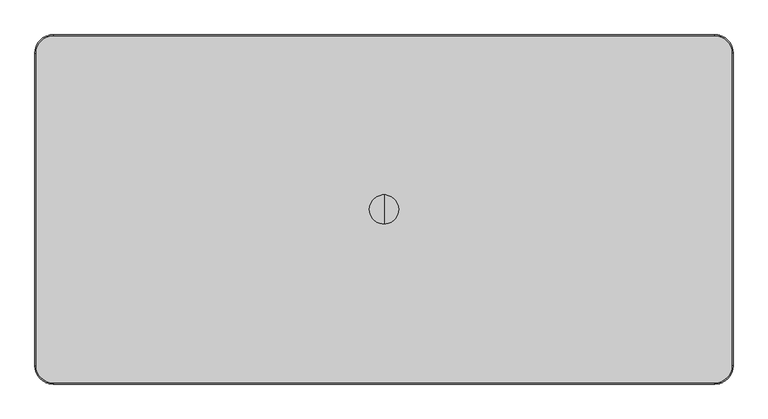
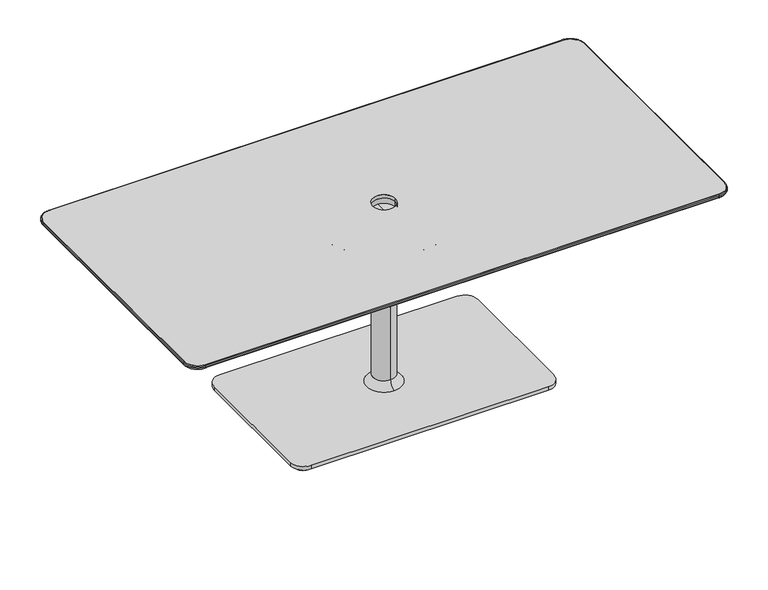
"""IFC4 building model written with IfcOpenShell, lengths in millimetres: furniture geometry, Steelcase Coalesse - Lagunitas - Table - Work (1) : 26H x 36D x 72W."""

from ifc_helpers import new_model, si_unit, point, frame, frame_2d, origin, origin_with_axes, place, context, project, spatial, polyline, circle_curve, ellipse_curve, trimmed, segment, composite_curve, outline, extrude, source, transform, mapped, element, save
from ifc_brep_helpers import plane_surface, cylinder_surface, revolved_surface, spline_surface, advanced_brep


def furniture_56d704a0(model_context):
    return source(origin(), model_context, "Body", "SolidModel", [
        advanced_brep(
        [(911.6570059, 409.7063839, 648.3724172), (867.2070059, 454.1563839, 648.3724172), (-866.5969941, 454.1563839, 648.3724172), (-911.0469941, 409.7063839, 648.3724172), (-911.0469941, -409.7063839, 648.3724172), (-866.5969941, -454.1563839, 648.3724172), (867.2070059, -454.1563839, 648.3724172), (911.6570059, -409.7063839, 648.3724172), (38.4050059, 0.0, 648.3724172), (-37.7949941, 0.0, 648.3724172), (843.8389826, 386.3390054, 630.3099277), (843.8389826, -386.3390054, 630.3099277), (-843.2289709, -386.3390054, 630.3099277), (-843.2289709, 386.3390054, 630.3099277), (-37.7949941, 0.0, 630.3099277), (38.4050059, 0.0, 630.3099277)],
        [
            (0, 1, circle_curve(frame((867.2070059, 409.7063839, 648.3724172), z_axis=(0.0, 0.0, 1.0), x_axis=(1.0, 0.0, 0.0)), 44.45)),
            (1, 2),
            (2, 3, circle_curve(frame((-866.5969941, 409.7063839, 648.3724172), z_axis=(0.0, 0.0, 1.0), x_axis=(1.0, 0.0, 0.0)), 44.45)),
            (3, 4),
            (4, 5, circle_curve(frame((-866.5969941, -409.7063839, 648.3724172), z_axis=(0.0, 0.0, 1.0), x_axis=(1.0, 0.0, 0.0)), 44.45)),
            (5, 6),
            (6, 7, circle_curve(frame((867.2070059, -409.7063839, 648.3724172), z_axis=(0.0, 0.0, 1.0), x_axis=(1.0, 0.0, 0.0)), 44.45)),
            (7, 0),
            (8, 9, circle_curve(frame((0.3050059, 0.0, 648.3724172), z_axis=(0.0, 0.0, -1.0), x_axis=(1.0, 0.0, 0.0)), 38.1)),
            (9, 8, circle_curve(frame((0.3050059, 0.0, 648.3724172), z_axis=(0.0, 0.0, -1.0), x_axis=(1.0, 0.0, 0.0)), 38.1)),
            (10, 11),
            (11, 12),
            (12, 13),
            (13, 10),
            (14, 15, circle_curve(frame((0.3050059, 0.0, 630.3099277), z_axis=(0.0, 0.0, 1.0), x_axis=(1.0, 0.0, 0.0)), 38.1)),
            (15, 14, circle_curve(frame((0.3050059, 0.0, 630.3099277), z_axis=(0.0, 0.0, 1.0), x_axis=(1.0, 0.0, 0.0)), 38.1)),
            (0, 10),
            (10, 1),
            (13, 2),
            (13, 3),
            (12, 4),
            (12, 5),
            (11, 6),
            (11, 7),
            (14, 9),
            (8, 15),
        ],
        [
            plane_surface(frame((0.3050059, 0.0, 648.3724172), z_axis=(0.0, 0.0, 1.0), x_axis=(-1.0, 0.0, 0.0))),
            plane_surface(frame((0.3050059, 0.0, 630.3099277), z_axis=(0.0, 0.0, -1.0), x_axis=(-1.0, 0.0, 0.0))),
            spline_surface(2, 1, [[(843.8389826, 386.3390054, 630.3099277), (911.6570059, 409.7063839, 648.3724172)], [(843.8389826, 386.3390054, 630.3099277), (911.6570058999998, 454.1563838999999, 648.3724172)], [(843.8389826, 386.3390054, 630.3099277), (867.2070059, 454.1563839, 648.3724172)]], [3, 3], [2, 2], [0.0, 1.0], [0.0, 1.0], weights=[[1.0, 1.0], [0.707106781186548, 0.707106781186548], [1.0, 1.0]]),
            plane_surface(frame((0.3050059, 386.3390054, 630.3099277), z_axis=(0.0, 0.25736805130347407, -0.9663134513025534), x_axis=(-1.0, 0.0, 0.0))),
            spline_surface(2, 1, [[(-843.2289709, 386.3390054, 630.3099277), (-866.5969941, 454.1563839, 648.3724172)], [(-843.2289709, 386.3390054, 630.3099277), (-911.0469940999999, 454.1563838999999, 648.3724172)], [(-843.2289709, 386.3390054, 630.3099277), (-911.0469941, 409.7063839, 648.3724172)]], [3, 3], [2, 2], [0.0, 1.0], [0.0, 1.0], weights=[[1.0, 1.0], [0.707106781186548, 0.707106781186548], [1.0, 1.0]]),
            plane_surface(frame((-843.2289709, 0.0, 630.3099277), z_axis=(-0.25736576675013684, 0.0, -0.9663140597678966), x_axis=(0.0, -1.0, 0.0))),
            spline_surface(2, 1, [[(-843.2289709, -386.3390054, 630.3099277), (-911.0469941, -409.7063839, 648.3724172)], [(-843.2289709, -386.3390054, 630.3099277), (-911.0469941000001, -454.15638390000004, 648.3724172)], [(-843.2289709, -386.3390054, 630.3099277), (-866.5969941, -454.1563839, 648.3724172)]], [3, 3], [2, 2], [0.0, 1.0], [0.0, 1.0], weights=[[1.0, 1.0], [0.7071067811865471, 0.7071067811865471], [1.0, 1.0]]),
            plane_surface(frame((0.3050059, -386.3390054, 630.3099277), z_axis=(0.0, -0.2573680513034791, -0.9663134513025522), x_axis=(1.0, 0.0, 0.0))),
            spline_surface(2, 1, [[(843.8389826, -386.3390054, 630.3099277), (867.2070059, -454.1563839, 648.3724172)], [(843.8389826, -386.3390054, 630.3099277), (911.6570059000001, -454.15638390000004, 648.3724172)], [(843.8389826, -386.3390054, 630.3099277), (911.6570059, -409.7063839, 648.3724172)]], [3, 3], [2, 2], [0.0, 1.0], [0.0, 1.0], weights=[[1.0, 1.0], [0.707106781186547, 0.707106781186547], [1.0, 1.0]]),
            plane_surface(frame((843.8389826, 0.0, 630.3099277), z_axis=(0.2573657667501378, 0.0, -0.9663140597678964), x_axis=(0.0, 1.0, 0.0))),
            revolved_surface(polyline([(38.4050059, 0.0, 648.3724172), (38.4050059, 0.0, 630.3099277)]), (0.3050059, 0.0, 622.3), (0.0, 0.0, 1.0)),
        ],
        [
            (0, [[1, 2, 3, 4, 5, 6, 7, 8], [9, 10]]),
            (1, [[11, 12, 13, 14], [15, 16]]),
            (2, [[-1, 17, 18]]),
            (3, [[-2, -18, -14, 19]]),
            (4, [[-3, -19, 20]]),
            (5, [[-4, -20, -13, 21]]),
            (6, [[-5, -21, 22]]),
            (7, [[-6, -22, -12, 23]]),
            (8, [[-7, -23, 24]]),
            (9, [[-8, -24, -11, -17]]),
            (10, [[25, -9, 26, -15]]),
            (10, [[-25, -16, -26, -10]]),
        ],
    ),
        extrude(outline(composite_curve([segment(trimmed(circle_curve(frame_2d((867.2070059, 409.7063839)), 44.45), [point((867.2070059, 454.1563839))], [point((911.6570059, 409.7063839))], False, "CARTESIAN"), True, "CONTINUOUS"), segment(polyline([(911.6570059, 409.7063839), (911.6570059, -409.7063839)]), True, "CONTINUOUS"), segment(trimmed(circle_curve(frame_2d((867.2070059, -409.7063839)), 44.45), [point((911.6570059, -409.7063839))], [point((867.2070059, -454.1563839))], False, "CARTESIAN"), True, "CONTINUOUS"), segment(polyline([(867.2070059, -454.1563839), (-866.5969941, -454.1563839)]), True, "CONTINUOUS"), segment(trimmed(circle_curve(frame_2d((-866.5969941, -409.7063839)), 44.45), [point((-866.5969941, -454.1563839))], [point((-911.0469941, -409.7063839))], False, "CARTESIAN"), True, "CONTINUOUS"), segment(polyline([(-911.0469941, -409.7063839), (-911.0469941, 409.7063839)]), True, "CONTINUOUS"), segment(trimmed(circle_curve(frame_2d((-866.5969941, 409.7063839)), 44.45), [point((-911.0469941, 409.7063839))], [point((-866.5969941, 454.1563839))], False, "CARTESIAN"), True, "CONTINUOUS"), segment(polyline([(-866.5969941, 454.1563839), (867.2070059, 454.1563839)]), True, "CONTINUOUS")], self_intersect=False), holes=[composite_curve([segment(trimmed(circle_curve(frame_2d((0.3050059, 0.0)), 38.1), [point((-37.7949941, 0.0))], [point((38.4050059, 0.0))], True, "CARTESIAN"), True, "CONTINUOUS"), segment(trimmed(circle_curve(frame_2d((0.3050059, 0.0)), 38.1), [point((38.4050059, 0.0))], [point((-37.7949941, 0.0))], True, "CARTESIAN"), True, "CONTINUOUS")], self_intersect=False)]), frame((0.0, 0.0, 648.3724172), z_axis=(0.0, 0.0, 1.0), x_axis=(1.0, 0.0, 0.0)), (0.0, 0.0, 1.0), 12.0275828),
        extrude(outline(composite_curve([segment(trimmed(circle_curve(frame_2d((-404.2943146, 226.8029495)), 25.4), [point((-429.6943146, 226.8029495))], [point((-378.8943146, 226.8029495))], False, "CARTESIAN"), True, "CONTINUOUS"), segment(trimmed(circle_curve(frame_2d((-404.2943146, 226.8029495)), 25.4), [point((-378.8943146, 226.8029495))], [point((-429.6943146, 226.8029495))], False, "CARTESIAN"), True, "CONTINUOUS")], self_intersect=False)), origin_with_axes(), (0.0, 0.0, 1.0), 10.6571495),
        extrude(outline(composite_curve([segment(trimmed(circle_curve(frame_2d((404.9043263, 226.8029495)), 25.4), [point((379.5043263, 226.8029495))], [point((430.3043263, 226.8029495))], False, "CARTESIAN"), True, "CONTINUOUS"), segment(trimmed(circle_curve(frame_2d((404.9043263, 226.8029495)), 25.4), [point((430.3043263, 226.8029495))], [point((379.5043263, 226.8029495))], False, "CARTESIAN"), True, "CONTINUOUS")], self_intersect=False)), origin_with_axes(), (0.0, 0.0, 1.0), 10.6571495),
        extrude(outline(composite_curve([segment(trimmed(circle_curve(frame_2d((404.9043263, -226.8029495)), 25.4), [point((379.5043263, -226.8029495))], [point((430.3043263, -226.8029495))], False, "CARTESIAN"), True, "CONTINUOUS"), segment(trimmed(circle_curve(frame_2d((404.9043263, -226.8029495)), 25.4), [point((430.3043263, -226.8029495))], [point((379.5043263, -226.8029495))], False, "CARTESIAN"), True, "CONTINUOUS")], self_intersect=False)), origin_with_axes(), (0.0, 0.0, 1.0), 10.6571495),
        extrude(outline(composite_curve([segment(trimmed(circle_curve(frame_2d((-404.2943146, -226.8029495)), 25.4), [point((-429.6943146, -226.8029495))], [point((-378.8943146, -226.8029495))], False, "CARTESIAN"), True, "CONTINUOUS"), segment(trimmed(circle_curve(frame_2d((-404.2943146, -226.8029495)), 25.4), [point((-378.8943146, -226.8029495))], [point((-429.6943146, -226.8029495))], False, "CARTESIAN"), True, "CONTINUOUS")], self_intersect=False)), origin_with_axes(), (0.0, 0.0, 1.0), 10.6571495),
        extrude(outline(composite_curve([segment(trimmed(circle_curve(frame_2d((400.3550059, 222.2481833)), 44.45), [point((400.3550059, 266.6981833))], [point((444.8050059, 222.2481833))], False, "CARTESIAN"), True, "CONTINUOUS"), segment(polyline([(444.8050059, 222.2481833), (444.8050059, -222.2481833)]), True, "CONTINUOUS"), segment(trimmed(circle_curve(frame_2d((400.3550059, -222.2481833)), 44.45), [point((444.8050059, -222.2481833))], [point((400.3550059, -266.6981833))], False, "CARTESIAN"), True, "CONTINUOUS"), segment(polyline([(400.3550059, -266.6981833), (-399.7449941, -266.6981833)]), True, "CONTINUOUS"), segment(trimmed(circle_curve(frame_2d((-399.7449941, -222.2481833)), 44.45), [point((-399.7449941, -266.6981833))], [point((-444.1949941, -222.2481833))], False, "CARTESIAN"), True, "CONTINUOUS"), segment(polyline([(-444.1949941, -222.2481833), (-444.1949941, 222.2481833)]), True, "CONTINUOUS"), segment(trimmed(circle_curve(frame_2d((-399.7449941, 222.2481833)), 44.45), [point((-444.1949941, 222.2481833))], [point((-399.7449941, 266.6981833))], False, "CARTESIAN"), True, "CONTINUOUS"), segment(polyline([(-399.7449941, 266.6981833), (400.3550059, 266.6981833)]), True, "CONTINUOUS")], self_intersect=False)), frame((0.0, 0.0, 10.6571495), z_axis=(0.0, 0.0, 1.0), x_axis=(1.0, 0.0, 0.0)), (0.0, 0.0, 1.0), 12.7000004),
        advanced_brep(
        [(-914.0930954, 409.7063839, 652.1656816), (-866.5969941, 457.2024852, 652.1656816), (-866.5969941, 454.1563839, 648.3724172), (-911.0469941, 409.7063839, 648.3724172), (-914.0930954, 409.7063839, 657.3538988), (-866.5969941, 457.2024852, 657.3538988), (-911.0469941, 409.7063839, 660.4), (-866.5969941, 454.1563839, 660.4), (-911.0469941, -409.7063839, 648.3724172), (-914.0930954, -409.7063839, 652.1656816), (-914.0930954, -409.7063839, 657.3538988), (-911.0469941, -409.7063839, 660.4), (-866.5969941, -457.2024852, 652.1656816), (-866.5969941, -454.1563839, 648.3724172), (-866.5969941, -457.2024852, 657.3538988), (-866.5969941, -454.1563839, 660.4), (867.2070059, -454.1563839, 648.3724172), (867.2070059, -457.2024852, 652.1656816), (867.2070059, -457.2024852, 657.3538988), (867.2070059, -454.1563839, 660.4), (914.7031071, -409.7063839, 652.1656816), (911.6570059, -409.7063839, 648.3724172), (914.7031071, -409.7063839, 657.3538988), (911.6570059, -409.7063839, 660.4), (911.6570059, 409.7063839, 648.3724172), (914.7031071, 409.7063839, 652.1656816), (914.7031071, 409.7063839, 657.3538988), (911.6570059, 409.7063839, 660.4), (867.2070059, 457.2024852, 652.1656816), (867.2070059, 454.1563839, 648.3724172), (867.2070059, 457.2024852, 657.3538988), (867.2070059, 454.1563839, 660.4)],
        [
            (0, 1, circle_curve(frame((-866.5969941, 409.7063839, 652.1656816), z_axis=(0.0, 0.0, -1.0), x_axis=(0.0, 1.0, 0.0)), 47.4961012)),
            (1, 2, circle_curve(frame((-866.5969941, 453.3175869, 652.1656816), z_axis=(-1.0, 0.0, 0.0), x_axis=(0.0, -1.0, 0.0)), 3.8848983)),
            (2, 3, circle_curve(frame((-866.5969941, 409.7063839, 648.3724172), z_axis=(0.0, 0.0, 1.0), x_axis=(0.0, 1.0, 0.0)), 44.45)),
            (3, 0, circle_curve(frame((-910.2081971, 409.7063839, 652.1656816), z_axis=(0.0, 1.0, 0.0), x_axis=(1.0, 0.0, 0.0)), 3.8848983)),
            (4, 5, circle_curve(frame((-866.5969941, 409.7063839, 657.3538988), z_axis=(0.0, 0.0, -1.0), x_axis=(0.0, 1.0, 0.0)), 47.4961012)),
            (5, 1),
            (0, 4),
            (6, 7, circle_curve(frame((-866.5969941, 409.7063839, 660.4), z_axis=(0.0, 0.0, -1.0), x_axis=(0.0, 1.0, 0.0)), 44.45)),
            (7, 5, circle_curve(frame((-866.5969941, 454.1563839, 657.3538988), z_axis=(-1.0, 0.0, 0.0), x_axis=(0.0, -1.0, 0.0)), 3.0461012)),
            (4, 6, circle_curve(frame((-911.0469941, 409.7063839, 657.3538988), z_axis=(0.0, 1.0, 0.0), x_axis=(1.0, 0.0, 0.0)), 3.0461012)),
            (2, 7),
            (6, 3),
            (3, 8),
            (8, 9, circle_curve(frame((-910.2081971, -409.7063839, 652.1656816), z_axis=(0.0, 1.0, 0.0), x_axis=(1.0, 0.0, 0.0)), 3.8848983)),
            (9, 0),
            (9, 10),
            (10, 4),
            (10, 11, circle_curve(frame((-911.0469941, -409.7063839, 657.3538988), z_axis=(0.0, 1.0, 0.0), x_axis=(1.0, 0.0, 0.0)), 3.0461012)),
            (11, 6),
            (11, 8),
            (12, 9, circle_curve(frame((-866.5969941, -409.7063839, 652.1656816), z_axis=(0.0, 0.0, -1.0), x_axis=(-1.0, 0.0, 0.0)), 47.4961012)),
            (8, 13, circle_curve(frame((-866.5969941, -409.7063839, 648.3724172), z_axis=(0.0, 0.0, 1.0), x_axis=(-1.0, 0.0, 0.0)), 44.45)),
            (13, 12, circle_curve(frame((-866.5969941, -453.3175869, 652.1656816), z_axis=(-1.0, 0.0, 0.0), x_axis=(0.0, 1.0, 0.0)), 3.8848983)),
            (14, 10, circle_curve(frame((-866.5969941, -409.7063839, 657.3538988), z_axis=(0.0, 0.0, -1.0), x_axis=(-1.0, 0.0, 0.0)), 47.4961012)),
            (12, 14),
            (15, 11, circle_curve(frame((-866.5969941, -409.7063839, 660.4), z_axis=(0.0, 0.0, -1.0), x_axis=(-1.0, 0.0, 0.0)), 44.45)),
            (14, 15, circle_curve(frame((-866.5969941, -454.1563839, 657.3538988), z_axis=(-1.0, 0.0, 0.0), x_axis=(0.0, 1.0, 0.0)), 3.0461012)),
            (15, 13),
            (13, 16),
            (16, 17, circle_curve(frame((867.2070059, -453.3175869, 652.1656816), z_axis=(-1.0, 0.0, 0.0), x_axis=(0.0, 1.0, 0.0)), 3.8848983)),
            (17, 12),
            (17, 18),
            (18, 14),
            (18, 19, circle_curve(frame((867.2070059, -454.1563839, 657.3538988), z_axis=(-1.0, 0.0, 0.0), x_axis=(0.0, 1.0, 0.0)), 3.0461012)),
            (19, 15),
            (19, 16),
            (20, 17, circle_curve(frame((867.2070059, -409.7063839, 652.1656816), z_axis=(0.0, 0.0, -1.0), x_axis=(0.0, -1.0, 0.0)), 47.4961012)),
            (16, 21, circle_curve(frame((867.2070059, -409.7063839, 648.3724172), z_axis=(0.0, 0.0, 1.0), x_axis=(0.0, -1.0, 0.0)), 44.45)),
            (21, 20, circle_curve(frame((910.8182088, -409.7063839, 652.1656816), z_axis=(0.0, -1.0, 0.0), x_axis=(-1.0, 0.0, 0.0)), 3.8848983)),
            (22, 18, circle_curve(frame((867.2070059, -409.7063839, 657.3538988), z_axis=(0.0, 0.0, -1.0), x_axis=(0.0, -1.0, 0.0)), 47.4961012)),
            (20, 22),
            (23, 19, circle_curve(frame((867.2070059, -409.7063839, 660.4), z_axis=(0.0, 0.0, -1.0), x_axis=(0.0, -1.0, 0.0)), 44.45)),
            (22, 23, circle_curve(frame((911.6570059, -409.7063839, 657.3538988), z_axis=(0.0, -1.0, 0.0), x_axis=(-1.0, 0.0, 0.0)), 3.0461012)),
            (23, 21),
            (21, 24),
            (24, 25, circle_curve(frame((910.8182088, 409.7063839, 652.1656816), z_axis=(0.0, -1.0, 0.0), x_axis=(-1.0, 0.0, 0.0)), 3.8848983)),
            (25, 20),
            (25, 26),
            (26, 22),
            (26, 27, circle_curve(frame((911.6570059, 409.7063839, 657.3538988), z_axis=(0.0, -1.0, 0.0), x_axis=(-1.0, 0.0, 0.0)), 3.0461012)),
            (27, 23),
            (27, 24),
            (28, 25, circle_curve(frame((867.2070059, 409.7063839, 652.1656816), z_axis=(0.0, 0.0, -1.0), x_axis=(1.0, 0.0, 0.0)), 47.4961012)),
            (24, 29, circle_curve(frame((867.2070059, 409.7063839, 648.3724172), z_axis=(0.0, 0.0, 1.0), x_axis=(1.0, 0.0, 0.0)), 44.45)),
            (29, 28, circle_curve(frame((867.2070059, 453.3175869, 652.1656816), z_axis=(1.0, 0.0, 0.0), x_axis=(0.0, -1.0, 0.0)), 3.8848983)),
            (30, 26, circle_curve(frame((867.2070059, 409.7063839, 657.3538988), z_axis=(0.0, 0.0, -1.0), x_axis=(1.0, 0.0, 0.0)), 47.4961012)),
            (28, 30),
            (31, 27, circle_curve(frame((867.2070059, 409.7063839, 660.4), z_axis=(0.0, 0.0, -1.0), x_axis=(1.0, 0.0, 0.0)), 44.45)),
            (30, 31, circle_curve(frame((867.2070059, 454.1563839, 657.3538988), z_axis=(1.0, 0.0, 0.0), x_axis=(0.0, -1.0, 0.0)), 3.0461012)),
            (31, 29),
            (29, 2),
            (1, 28),
            (5, 30),
            (7, 31),
        ],
        [
            revolved_surface(trimmed(ellipse_curve(frame((-866.5969941, 453.3175869, 652.1656816), z_axis=(1.0, 0.0, 0.0), x_axis=(0.0, -1.0, 0.0)), 3.8848983, 3.8848983), [point((-866.5969941, 454.1563839, 648.3724172))], [point((-866.5969941, 457.2024852, 652.1656816))], True, "CARTESIAN"), (-866.5969941, 409.7063839, 0.0), (0.0, 0.0, 1.0)),
            cylinder_surface(frame((-866.5969941, 409.7063839, 0.0), z_axis=(0.0, 0.0, 1.0), x_axis=(0.0, 1.0, 0.0)), 47.4961012),
            revolved_surface(trimmed(ellipse_curve(frame((-866.5969941, 454.1563839, 657.3538988), z_axis=(1.0, 0.0, 0.0), x_axis=(0.0, -1.0, 0.0)), 3.0461012, 3.0461012), [point((-866.5969941, 457.2024852, 657.3538988))], [point((-866.5969941, 454.1563839, 660.4))], True, "CARTESIAN"), (-866.5969941, 409.7063839, 0.0), (0.0, 0.0, 1.0)),
            revolved_surface(polyline([(-866.5969941, 454.1563839, 660.4), (-866.5969941, 454.1563839, 648.3724172)]), (-866.5969941, 409.7063839, 0.0), (0.0, 0.0, 1.0)),
            cylinder_surface(frame((-910.2081971, 409.7063839, 652.1656816), z_axis=(0.0, 1.0, 0.0), x_axis=(1.0, 0.0, 0.0)), 3.8848983),
            plane_surface(frame((-914.0930954, 409.7063839, 652.1656816), z_axis=(-1.0, 0.0, 0.0), x_axis=(0.0, -1.0, 0.0))),
            cylinder_surface(frame((-911.0469941, 409.7063839, 657.3538988), z_axis=(0.0, 1.0, 0.0), x_axis=(1.0, 0.0, 0.0)), 3.0461012),
            plane_surface(frame((-911.0469941, 409.7063839, 660.4), z_axis=(1.0, 0.0, 0.0), x_axis=(0.0, -1.0, 0.0))),
            revolved_surface(trimmed(ellipse_curve(frame((-910.2081971, -409.7063839, 652.1656816), z_axis=(0.0, 1.0, 0.0), x_axis=(1.0, 0.0, 0.0)), 3.8848983, 3.8848983), [point((-911.0469941, -409.7063839, 648.3724172))], [point((-914.0930954, -409.7063839, 652.1656816))], True, "CARTESIAN"), (-866.5969941, -409.7063839, 0.0), (0.0, 0.0, 1.0)),
            cylinder_surface(frame((-866.5969941, -409.7063839, 0.0), z_axis=(0.0, 0.0, 1.0), x_axis=(-1.0, 0.0, 0.0)), 47.4961012),
            revolved_surface(trimmed(ellipse_curve(frame((-911.0469941, -409.7063839, 657.3538988), z_axis=(0.0, 1.0, 0.0), x_axis=(1.0, 0.0, 0.0)), 3.0461012, 3.0461012), [point((-914.0930954, -409.7063839, 657.3538988))], [point((-911.0469941, -409.7063839, 660.4))], True, "CARTESIAN"), (-866.5969941, -409.7063839, 0.0), (0.0, 0.0, 1.0)),
            revolved_surface(polyline([(-911.0469941, -409.7063839, 660.4), (-911.0469941, -409.7063839, 648.3724172)]), (-866.5969941, -409.7063839, 0.0), (0.0, 0.0, 1.0)),
            cylinder_surface(frame((-866.5969941, -453.3175869, 652.1656816), z_axis=(-1.0, 0.0, 0.0), x_axis=(0.0, 1.0, 0.0)), 3.8848983),
            plane_surface(frame((-866.5969941, -457.2024852, 652.1656816), z_axis=(0.0, -1.0, 0.0), x_axis=(1.0, 0.0, 0.0))),
            cylinder_surface(frame((-866.5969941, -454.1563839, 657.3538988), z_axis=(-1.0, 0.0, 0.0), x_axis=(0.0, 1.0, 0.0)), 3.0461012),
            plane_surface(frame((-866.5969941, -454.1563839, 660.4), z_axis=(0.0, 1.0, 0.0), x_axis=(1.0, 0.0, 0.0))),
            revolved_surface(trimmed(ellipse_curve(frame((867.2070059, -453.3175869, 652.1656816), z_axis=(-1.0, 0.0, 0.0), x_axis=(0.0, 1.0, 0.0)), 3.8848983, 3.8848983), [point((867.2070059, -454.1563839, 648.3724172))], [point((867.2070059, -457.2024852, 652.1656816))], True, "CARTESIAN"), (867.2070059, -409.7063839, 0.0), (0.0, 0.0, 1.0)),
            cylinder_surface(frame((867.2070059, -409.7063839, 0.0), z_axis=(0.0, 0.0, 1.0), x_axis=(0.0, -1.0, 0.0)), 47.4961012),
            revolved_surface(trimmed(ellipse_curve(frame((867.2070059, -454.1563839, 657.3538988), z_axis=(-1.0, 0.0, 0.0), x_axis=(0.0, 1.0, 0.0)), 3.0461012, 3.0461012), [point((867.2070059, -457.2024852, 657.3538988))], [point((867.2070059, -454.1563839, 660.4))], True, "CARTESIAN"), (867.2070059, -409.7063839, 0.0), (0.0, 0.0, 1.0)),
            revolved_surface(polyline([(867.2070059, -454.1563839, 660.4), (867.2070059, -454.1563839, 648.3724172)]), (867.2070059, -409.7063839, 0.0), (0.0, 0.0, 1.0)),
            cylinder_surface(frame((910.8182088, -409.7063839, 652.1656816), z_axis=(0.0, -1.0, 0.0), x_axis=(-1.0, 0.0, 0.0)), 3.8848983),
            plane_surface(frame((914.7031071, -409.7063839, 652.1656816), z_axis=(1.0, 0.0, 0.0), x_axis=(0.0, 1.0, 0.0))),
            cylinder_surface(frame((911.6570059, -409.7063839, 657.3538988), z_axis=(0.0, -1.0, 0.0), x_axis=(-1.0, 0.0, 0.0)), 3.0461012),
            plane_surface(frame((911.6570059, -409.7063839, 660.4), z_axis=(-1.0, 0.0, 0.0), x_axis=(0.0, 1.0, 0.0))),
            revolved_surface(trimmed(ellipse_curve(frame((910.8182088, 409.7063839, 652.1656816), z_axis=(0.0, -1.0, 0.0), x_axis=(-1.0, 0.0, 0.0)), 3.8848983, 3.8848983), [point((911.6570059, 409.7063839, 648.3724172))], [point((914.7031071, 409.7063839, 652.1656816))], True, "CARTESIAN"), (867.2070059, 409.7063839, 0.0), (0.0, 0.0, 1.0)),
            cylinder_surface(frame((867.2070059, 409.7063839, 0.0), z_axis=(0.0, 0.0, 1.0), x_axis=(1.0, 0.0, 0.0)), 47.4961012),
            revolved_surface(trimmed(ellipse_curve(frame((911.6570059, 409.7063839, 657.3538988), z_axis=(0.0, -1.0, 0.0), x_axis=(-1.0, 0.0, 0.0)), 3.0461012, 3.0461012), [point((914.7031071, 409.7063839, 657.3538988))], [point((911.6570059, 409.7063839, 660.4))], True, "CARTESIAN"), (867.2070059, 409.7063839, 0.0), (0.0, 0.0, 1.0)),
            revolved_surface(polyline([(911.6570059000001, 409.7063839, 660.4), (911.6570059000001, 409.7063839, 648.3724172)]), (867.2070059, 409.7063839, 0.0), (0.0, 0.0, 1.0)),
            cylinder_surface(frame((867.2070059, 453.3175869, 652.1656816), z_axis=(1.0, 0.0, 0.0), x_axis=(0.0, -1.0, 0.0)), 3.8848983),
            plane_surface(frame((867.2070059, 457.2024852, 652.1656816), z_axis=(0.0, 1.0, 0.0), x_axis=(-1.0, 0.0, 0.0))),
            cylinder_surface(frame((867.2070059, 454.1563839, 657.3538988), z_axis=(1.0, 0.0, 0.0), x_axis=(0.0, -1.0, 0.0)), 3.0461012),
            plane_surface(frame((867.2070059, 454.1563839, 660.4), z_axis=(0.0, -1.0, 0.0), x_axis=(-1.0, 0.0, 0.0))),
        ],
        [
            (0, [[1, 2, 3, 4]]),
            (1, [[5, 6, -1, 7]]),
            (2, [[8, 9, -5, 10]]),
            (3, [[-3, 11, -8, 12]]),
            (4, [[-4, 13, 14, 15]]),
            (5, [[-7, -15, 16, 17]]),
            (6, [[-10, -17, 18, 19]]),
            (7, [[-12, -19, 20, -13]]),
            (8, [[21, -14, 22, 23]]),
            (9, [[24, -16, -21, 25]]),
            (10, [[26, -18, -24, 27]]),
            (11, [[-22, -20, -26, 28]]),
            (12, [[-23, 29, 30, 31]]),
            (13, [[-25, -31, 32, 33]]),
            (14, [[-27, -33, 34, 35]]),
            (15, [[-28, -35, 36, -29]]),
            (16, [[37, -30, 38, 39]]),
            (17, [[40, -32, -37, 41]]),
            (18, [[42, -34, -40, 43]]),
            (19, [[-38, -36, -42, 44]]),
            (20, [[-39, 45, 46, 47]]),
            (21, [[-41, -47, 48, 49]]),
            (22, [[-43, -49, 50, 51]]),
            (23, [[-44, -51, 52, -45]]),
            (24, [[53, -46, 54, 55]]),
            (25, [[56, -48, -53, 57]]),
            (26, [[58, -50, -56, 59]]),
            (27, [[-54, -52, -58, 60]]),
            (28, [[-55, 61, -2, 62]]),
            (29, [[-57, -62, -6, 63]]),
            (30, [[-59, -63, -9, 64]]),
            (31, [[-60, -64, -11, -61]]),
        ],
    ),
        advanced_brep(
        [(0.3050059, -37.9287895, 500.8567695), (0.3050059, 37.9287895, 500.8567695), (0.3050059, 37.9287895, 50.0429711), (0.3050059, -37.9287895, 50.0429711), (0.3050059, -59.3395816, 538.8698908), (0.3050059, 59.3395816, 538.8698908), (0.3050059, -197.9068019, 622.8534968), (0.3050059, 197.9068019, 622.8534968), (0.3050059, -212.4265152, 626.9101307), (0.3050059, 212.4265152, 626.9101307), (0.3050059, -226.4292749, 626.9101307), (0.3050059, 226.4292749, 626.9101307), (0.3050059, -228.4774392, 630.3099277), (0.3050059, 228.4774392, 630.3099277), (0.3050059, 0.0, 630.3099277), (0.3050059, -60.2304855, 23.3571499), (0.3050059, 60.2304855, 23.3571499), (0.3050059, 0.0, 23.3571499)],
        [
            (0, 1, circle_curve(frame((0.3050059, 0.0, 500.8567695), z_axis=(0.0, 0.0, -1.0), x_axis=(0.0, 1.0, 0.0)), 37.9287895)),
            (1, 2),
            (2, 3, circle_curve(frame((0.3050059, 0.0, 50.0429711), z_axis=(0.0, 0.0, 1.0), x_axis=(0.0, 1.0, 0.0)), 37.9287895)),
            (3, 0),
            (1, 0, circle_curve(frame((0.3050059, 0.0, 500.8567695), z_axis=(0.0, 0.0, -1.0), x_axis=(0.0, 1.0, 0.0)), 37.9287895)),
            (3, 2, circle_curve(frame((0.3050059, 0.0, 50.0429711), z_axis=(0.0, 0.0, 1.0), x_axis=(0.0, 1.0, 0.0)), 37.9287895)),
            (4, 5, circle_curve(frame((0.3050059, 0.0, 538.8698908), z_axis=(0.0, 0.0, -1.0), x_axis=(0.0, 1.0, 0.0)), 59.3395816)),
            (5, 1, circle_curve(frame((0.3050059, 82.3787895, 500.8567695), z_axis=(1.0, 0.0, 0.0), x_axis=(0.0, 1.0, 0.0)), 44.45)),
            (0, 4, circle_curve(frame((0.3050059, -82.3787895, 500.8567695), z_axis=(1.0, 0.0, 0.0), x_axis=(0.0, -1.0, 0.0)), 44.45)),
            (5, 4, circle_curve(frame((0.3050059, 0.0, 538.8698908), z_axis=(0.0, 0.0, -1.0), x_axis=(0.0, 1.0, 0.0)), 59.3395816)),
            (6, 7, circle_curve(frame((0.3050059, 0.0, 622.8534968), z_axis=(0.0, 0.0, -1.0), x_axis=(0.0, 1.0, 0.0)), 197.9068019)),
            (7, 5),
            (4, 6),
            (7, 6, circle_curve(frame((0.3050059, 0.0, 622.8534968), z_axis=(0.0, 0.0, -1.0), x_axis=(0.0, 1.0, 0.0)), 197.9068019)),
            (8, 9, circle_curve(frame((0.3050059, 0.0, 626.9101307), z_axis=(0.0, 0.0, -1.0), x_axis=(0.0, 1.0, 0.0)), 212.4265152)),
            (9, 7, circle_curve(frame((0.3050059, 212.4265152, 598.8969605), z_axis=(1.0, 0.0, 0.0), x_axis=(0.0, 1.0, 0.0)), 28.0131702)),
            (6, 8, circle_curve(frame((0.3050059, -212.4265152, 598.8969605), z_axis=(1.0, 0.0, 0.0), x_axis=(0.0, -1.0, 0.0)), 28.0131702)),
            (9, 8, circle_curve(frame((0.3050059, 0.0, 626.9101307), z_axis=(0.0, 0.0, -1.0), x_axis=(0.0, 1.0, 0.0)), 212.4265152)),
            (10, 11, circle_curve(frame((0.3050059, 0.0, 626.9101307), z_axis=(0.0, 0.0, -1.0), x_axis=(0.0, 1.0, 0.0)), 226.4292749)),
            (11, 9),
            (8, 10),
            (11, 10, circle_curve(frame((0.3050059, 0.0, 626.9101307), z_axis=(0.0, 0.0, -1.0), x_axis=(0.0, 1.0, 0.0)), 226.4292749)),
            (12, 13, circle_curve(frame((0.3050059, 0.0, 630.3099277), z_axis=(0.0, 0.0, -1.0), x_axis=(0.0, 1.0, 0.0)), 228.4774392)),
            (13, 11, circle_curve(frame((0.3050059, 226.4292749, 629.2269744), z_axis=(-1.0, 0.0, 0.0), x_axis=(0.0, 1.0, 0.0)), 2.3168437)),
            (10, 12, circle_curve(frame((0.3050059, -226.4292749, 629.2269744), z_axis=(-1.0, 0.0, 0.0), x_axis=(0.0, -1.0, 0.0)), 2.3168437)),
            (13, 12, circle_curve(frame((0.3050059, 0.0, 630.3099277), z_axis=(0.0, 0.0, -1.0), x_axis=(0.0, 1.0, 0.0)), 228.4774392)),
            (14, 13),
            (12, 14),
            (15, 16, circle_curve(frame((0.3050059, 0.0, 23.3571499), z_axis=(0.0, 0.0, -1.0), x_axis=(0.0, 1.0, 0.0)), 60.2304855)),
            (16, 17),
            (17, 15),
            (16, 15, circle_curve(frame((0.3050059, 0.0, 23.3571499), z_axis=(0.0, 0.0, -1.0), x_axis=(0.0, 1.0, 0.0)), 60.2304855)),
            (2, 16, circle_curve(frame((0.3050059, 65.045532, 50.0429711), z_axis=(1.0, 0.0, 0.0), x_axis=(0.0, 1.0, 0.0)), 27.1167425)),
            (15, 3, circle_curve(frame((0.3050059, -65.045532, 50.0429711), z_axis=(1.0, 0.0, 0.0), x_axis=(0.0, -1.0, 0.0)), 27.1167425)),
        ],
        [
            cylinder_surface(frame((0.3050059, 0.0, 738.2745102), z_axis=(0.0, 0.0, 1.0), x_axis=(0.0, 1.0, 0.0)), 37.9287895),
            revolved_surface(trimmed(ellipse_curve(frame((0.3050059, 82.3787895, 500.8567695), z_axis=(-1.0, 0.0, 0.0), x_axis=(0.0, 1.0, 0.0)), 44.45, 44.45), [point((0.3050059, 37.9287895, 500.8567695))], [point((0.3050059, 59.3395816, 538.8698908))], True, "CARTESIAN"), (0.3050059, 0.0, 738.2745102), (0.0, 0.0, 1.0)),
            revolved_surface(polyline([(0.3050059, 59.3395816, 538.8698908), (0.3050059, 197.9068019, 622.8534968)]), (0.3050059, 0.0, 738.2745102), (0.0, 0.0, 1.0)),
            revolved_surface(trimmed(ellipse_curve(frame((0.3050059, 212.4265152, 598.8969605), z_axis=(-1.0, 0.0, 0.0), x_axis=(0.0, 1.0, 0.0)), 28.0131702, 28.0131702), [point((0.3050059, 197.9068019, 622.8534968))], [point((0.3050059, 212.4265152, 626.9101307))], True, "CARTESIAN"), (0.3050059, 0.0, 738.2745102), (0.0, 0.0, 1.0)),
            plane_surface(frame((0.3050059, 0.0, 626.9101307), z_axis=(0.0, 0.0, -1.0), x_axis=(0.0, 1.0, 0.0))),
            revolved_surface(trimmed(ellipse_curve(frame((0.3050059, 226.4292749, 629.2269744), z_axis=(1.0, 0.0, 0.0), x_axis=(0.0, 1.0, 0.0)), 2.3168437, 2.3168437), [point((0.3050059, 226.4292749, 626.9101307))], [point((0.3050059, 228.4774392, 630.3099277))], True, "CARTESIAN"), (0.3050059, 0.0, 738.2745102), (0.0, 0.0, 1.0)),
            plane_surface(frame((0.3050059, 0.0, 630.3099277), z_axis=(0.0, 0.0, 1.0), x_axis=(0.0, 1.0, 0.0))),
            plane_surface(frame((0.3050059, 0.0, 23.3571499), z_axis=(0.0, 0.0, -1.0), x_axis=(0.0, 1.0, 0.0))),
            revolved_surface(trimmed(ellipse_curve(frame((0.3050059, 65.045532, 50.0429711), z_axis=(-1.0, 0.0, 0.0), x_axis=(0.0, 1.0, 0.0)), 27.1167425, 27.1167425), [point((0.3050059, 60.2304855, 23.3571499))], [point((0.3050059, 37.9287895, 50.0429711))], True, "CARTESIAN"), (0.3050059, 0.0, 738.2745102), (0.0, 0.0, 1.0)),
        ],
        [
            (0, [[1, 2, 3, 4]]),
            (0, [[5, -4, 6, -2]]),
            (1, [[7, 8, -1, 9]]),
            (1, [[10, -9, -5, -8]]),
            (2, [[11, 12, -7, 13]]),
            (2, [[14, -13, -10, -12]]),
            (3, [[15, 16, -11, 17]]),
            (3, [[18, -17, -14, -16]]),
            (4, [[19, 20, -15, 21]]),
            (4, [[22, -21, -18, -20]]),
            (5, [[23, 24, -19, 25]]),
            (5, [[26, -25, -22, -24]]),
            (6, [[27, -23, 28]]),
            (6, [[-28, -26, -27]]),
            (7, [[29, 30, 31]]),
            (7, [[32, -31, -30]]),
            (8, [[-3, 33, -29, 34]]),
            (8, [[-6, -34, -32, -33]]),
        ],
    ),
    ])


if __name__ == "__main__":
    model = new_model("IFC4")
    model_context = context("Model", 3, world=origin())
    ifc_project = project(units=[si_unit("LENGTHUNIT", "METRE", prefix="MILLI")], contexts=[model_context])
    site = spatial("IfcSite", under=ifc_project)
    building = spatial("IfcBuilding", under=site)
    placement = place(None, origin())
    furniture_shape = furniture_56d704a0(model_context)
    element("IfcFurniture", 1, ObjectType="Steelcase Coalesse - Lagunitas - Table - Work (1) : 26H x 36D x 72W", at=placement, inside=building, context=model_context, shape_type="MappedRepresentation", body=[
        mapped(furniture_shape, transform((0.0, 0.0, 0.0), x_axis=(1.0, 0.0, 0.0), y_axis=(0.0, 1.0, 0.0), z_axis=(0.0, 0.0, 1.0))),
    ])
    save(model, "model.ifc")
